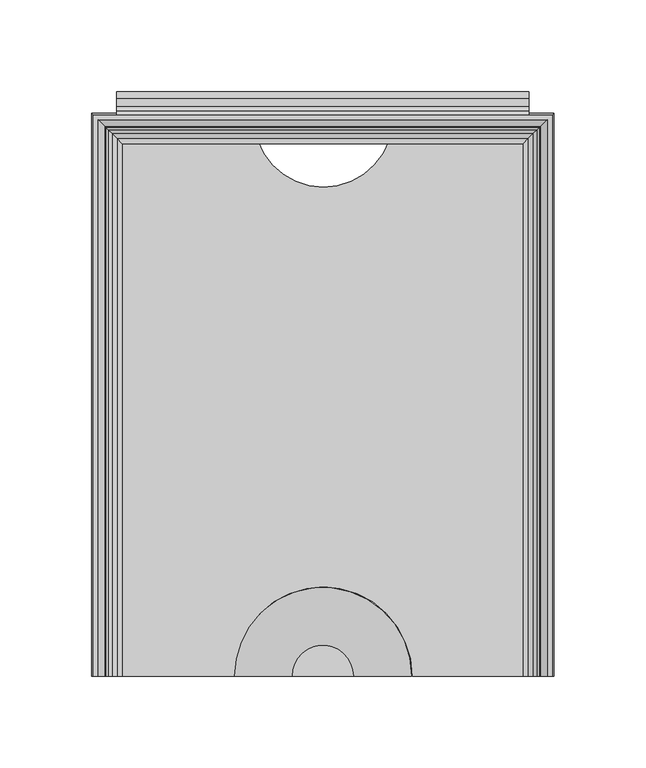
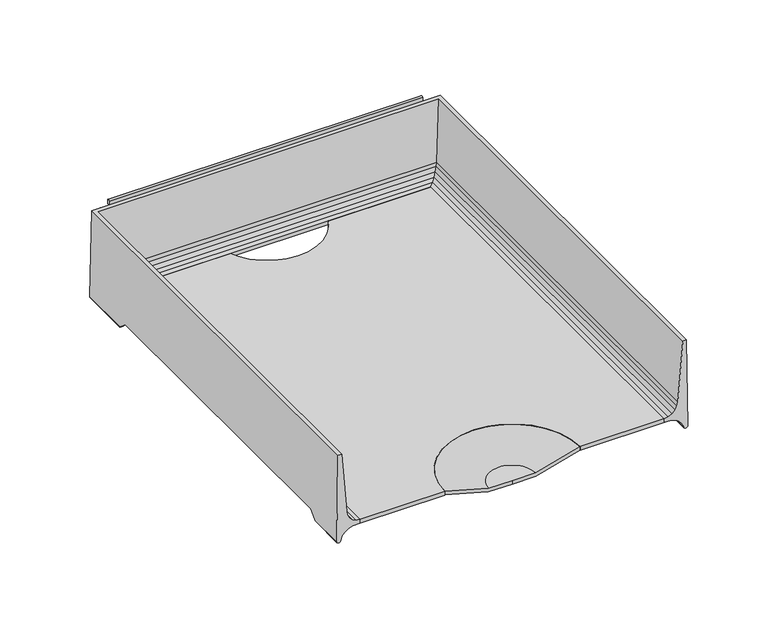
"""IFC4 building model written with IfcOpenShell, lengths in millimetres: furniture geometry."""

from ifc_helpers import new_model, si_unit, point, frame, frame_2d, origin, place, context, project, spatial, polyline, circle_curve, ellipse_curve, trimmed, segment, composite_curve, outline, extrude, source, transform, mapped, element, save
from ifc_brep_helpers import plane_surface, cylinder_surface, revolved_surface, advanced_brep


def furniture_90da91c6(model_context):
    return source(origin(), model_context, "Body", "SolidModel", [
        advanced_brep(
        [(126.0820502, -154.0206082, 849.0007489), (125.1325529, -154.0206082, 914.4001914), (122.4547921, -154.0206082, 914.4001914), (118.8379747, -154.0206082, 869.6131003), (118.4123648, -154.0206082, 866.8796052), (117.0774354, -154.0206082, 864.1785664), (114.9656457, -154.0206082, 862.0296015), (112.28832, -154.0206082, 860.6477261), (109.3133381, -154.0206082, 860.1712052), (109.3133381, -154.0206082, 857.3490971), (114.5666739, -154.0206082, 857.1560987), (117.605351, -154.0206082, 856.0997218), (120.2416, -154.0206082, 854.2558822), (122.2762142, -154.0206082, 851.7639079), (123.1625518, -154.0206082, 848.7206655), (126.0820502, -127.6379698, 849.0007489), (126.0026181, -121.5231874, 854.471872), (126.0026181, 109.0611937, 854.471872), (126.0820502, 115.1759816, 849.0007489), (126.0820502, 153.036442, 849.0007489), (125.1325529, 152.0869447, 914.4001914), (-125.1325529, 152.0869447, 914.4001914), (-125.1325529, -154.0206082, 914.4001914), (-122.4547921, -154.0206082, 914.4001914), (-122.4547921, 149.4091839, 914.4001914), (122.4547921, 149.4091839, 914.4001914), (118.8379747, 145.7923665, 869.6131003), (118.4123648, 145.3667566, 866.8796052), (117.0774354, 144.0318272, 864.1785664), (114.9656457, 141.9200375, 862.0296015), (112.28832, 139.2427118, 860.6477261), (109.3133381, 136.2677299, 860.1712052), (109.3133381, 136.2677299, 857.3490971), (114.5666739, 141.5210656, 857.1560987), (117.605351, 144.5597428, 856.0997218), (120.2416, 147.1959918, 854.2558822), (120.2416, 109.3025941, 854.2558822), (119.9327864, 109.0611937, 854.471872), (119.9327864, -121.5231874, 854.471872), (120.2416, -121.7645876, 854.2558822), (122.2762142, -124.5497344, 851.7639079), (122.2762142, 149.230606, 851.7639079), (122.2762142, 112.0877435, 851.7639079), (123.1625518, -127.9510041, 848.7206655), (123.1625518, 150.1169436, 848.7206655), (123.1625518, 115.4890162, 848.7206655), (-126.0820502, 153.036442, 849.0007489), (-118.8379747, 145.7923665, 869.6131003), (-118.4123648, 145.3667566, 866.8796052), (-117.0774354, 144.0318272, 864.1785664), (-114.9656457, 141.9200375, 862.0296015), (-112.28832, 139.2427118, 860.6477261), (-109.3133381, 136.2677299, 860.1712052), (-109.3133381, 136.2677299, 857.3490971), (-114.5666739, 141.5210656, 857.1560987), (-117.605351, 144.5597428, 856.0997218), (-120.2416, 147.1959918, 854.2558822), (-122.2762142, 149.230606, 851.7639079), (-123.1625518, 150.1169436, 848.7206655), (-126.0820502, -154.0206082, 849.0007489), (-123.1625518, -154.0206082, 848.7206655), (-122.2762142, -154.0206082, 851.7639079), (-120.2416, -154.0206082, 854.2558822), (-117.605351, -154.0206082, 856.0997218), (-114.5666739, -154.0206082, 857.1560987), (-109.3133381, -154.0206082, 857.3490971), (-109.3133381, -154.0206082, 860.1712052), (-112.28832, -154.0206082, 860.6477261), (-114.9656457, -154.0206082, 862.0296015), (-117.0774354, -154.0206082, 864.1785664), (-118.4123648, -154.0206082, 866.8796052), (-118.8379747, -154.0206082, 869.6131003), (-126.0820502, 115.1759816, 849.0007489), (-126.0026181, 109.0611937, 854.471872), (-126.0026181, -121.5231874, 854.471872), (-126.0820502, -127.6379698, 849.0007489), (-120.2416, -121.7645876, 854.2558822), (-119.9327864, -121.5231874, 854.471872), (-119.9327864, 109.0611937, 854.471872), (-120.2416, 109.3025941, 854.2558822), (-122.2762142, 112.0877435, 851.7639079), (-122.2762142, -124.5497344, 851.7639079), (-123.1625518, 115.4890162, 848.7206655), (-123.1625518, -127.9510041, 848.7206655)],
        [
            (0, 1),
            (1, 2),
            (2, 3),
            (3, 4),
            (4, 5),
            (5, 6),
            (6, 7),
            (7, 8),
            (8, 9),
            (9, 10),
            (10, 11),
            (11, 12),
            (12, 13),
            (13, 14),
            (14, 0, circle_curve(frame((124.5859452, -154.0206082, 849.2396685), z_axis=(0.0, -1.0, 0.0), x_axis=(-1.0, 0.0, 0.0)), 1.515062)),
            (0, 15),
            (15, 16),
            (16, 17),
            (17, 18),
            (18, 19),
            (19, 20),
            (20, 1),
            (20, 21),
            (21, 22),
            (22, 23),
            (23, 24),
            (24, 25),
            (25, 2),
            (25, 26),
            (26, 3),
            (26, 27),
            (27, 4),
            (27, 28),
            (28, 5),
            (28, 29),
            (29, 6),
            (29, 30),
            (30, 7),
            (30, 31),
            (31, 8),
            (31, 32),
            (32, 9),
            (32, 33),
            (33, 10),
            (33, 34),
            (34, 11),
            (34, 35),
            (35, 36),
            (36, 37),
            (37, 38),
            (38, 39),
            (39, 12),
            (39, 40),
            (40, 13),
            (35, 41),
            (41, 42),
            (42, 36),
            (40, 43),
            (43, 14),
            (41, 44),
            (44, 45),
            (45, 42),
            (43, 15, ellipse_curve(frame((124.5859452, -127.3709422, 849.2396685), z_axis=(0.0, -0.6667949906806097, 0.7452411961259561), x_axis=(0.0, -0.7452411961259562, -0.6667949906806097)), 2.2721556, 1.515062)),
            (44, 19, ellipse_curve(frame((124.5859452, 151.540337, 849.2396685), z_axis=(0.7071067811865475, -0.7071067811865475, 0.0), x_axis=(-0.7071067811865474, -0.7071067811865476, 0.0)), 2.1426212, 1.515062)),
            (18, 45, ellipse_curve(frame((124.5859452, 114.9089538, 849.2396685), z_axis=(0.0, 0.6667946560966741, 0.7452414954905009), x_axis=(0.0, -0.7452414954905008, 0.6667946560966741)), 2.2721567, 1.515062)),
            (19, 46),
            (46, 21),
            (24, 47),
            (47, 26),
            (47, 48),
            (48, 27),
            (48, 49),
            (49, 28),
            (49, 50),
            (50, 29),
            (50, 51),
            (51, 30),
            (51, 52),
            (52, 31),
            (52, 53),
            (53, 32),
            (53, 54),
            (54, 33),
            (54, 55),
            (55, 34),
            (55, 56),
            (56, 35),
            (56, 57),
            (57, 41),
            (57, 58),
            (58, 44),
            (58, 46, ellipse_curve(frame((-124.5859452, 151.540337, 849.2396685), z_axis=(0.7071067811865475, 0.7071067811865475, 0.0), x_axis=(0.7071067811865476, -0.7071067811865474, 0.0)), 2.1426212, 1.515062)),
            (22, 59),
            (59, 60, circle_curve(frame((-124.5859452, -154.0206082, 849.2396685), z_axis=(0.0, -1.0, 0.0), x_axis=(1.0, 0.0, 0.0)), 1.515062)),
            (60, 61),
            (61, 62),
            (62, 63),
            (63, 64),
            (64, 65),
            (65, 66),
            (66, 67),
            (67, 68),
            (68, 69),
            (69, 70),
            (70, 71),
            (71, 23),
            (46, 72),
            (72, 73),
            (73, 74),
            (74, 75),
            (75, 59),
            (71, 47),
            (70, 48),
            (69, 49),
            (68, 50),
            (67, 51),
            (66, 52),
            (65, 53),
            (64, 54),
            (63, 55),
            (62, 76),
            (76, 77),
            (77, 78),
            (78, 79),
            (79, 56),
            (79, 80),
            (80, 57),
            (61, 81),
            (81, 76),
            (80, 82),
            (82, 58),
            (60, 83),
            (83, 81),
            (82, 72, ellipse_curve(frame((-124.5859452, 114.9089538, 849.2396685), z_axis=(0.0, 0.6667946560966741, 0.7452414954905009), x_axis=(0.0, 0.7452414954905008, -0.6667946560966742)), 2.2721567, 1.515062)),
            (75, 83, ellipse_curve(frame((-124.5859452, -127.3709422, 849.2396685), z_axis=(0.0, -0.6667949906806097, 0.7452411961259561), x_axis=(0.0, 0.745241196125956, 0.6667949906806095)), 2.2721556, 1.515062)),
            (38, 16),
            (74, 77),
            (37, 17),
            (73, 78),
        ],
        [
            plane_surface(frame((127.0, -154.0206082, 847.725), z_axis=(0.0, -1.0, 0.0), x_axis=(0.0, 0.0, 1.0))),
            plane_surface(frame((126.0820502, -154.0206082, 849.0007489), z_axis=(0.9998946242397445, 0.0, 0.014516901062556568), x_axis=(0.0, 1.0, 0.0))),
            plane_surface(frame((125.1325529, -154.0206082, 914.4001914), z_axis=(0.0, 0.0, 1.0), x_axis=(0.0, 1.0, 0.0))),
            plane_surface(frame((122.4547921, -154.0206082, 914.4001914), z_axis=(-0.9967551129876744, 0.0, 0.08049375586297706), x_axis=(0.0, 1.0, 0.0))),
            plane_surface(frame((118.8379747, -154.0206082, 869.6131003), z_axis=(-0.9880945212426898, 0.0, 0.15384803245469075), x_axis=(0.0, 1.0, 0.0))),
            plane_surface(frame((118.4123648, -154.0206082, 866.8796052), z_axis=(-0.8964873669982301, 0.0, 0.44306929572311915), x_axis=(0.0, 1.0, 0.0))),
            plane_surface(frame((117.0774354, -154.0206082, 864.1785664), z_axis=(-0.7132491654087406, 0.0, 0.7009105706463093), x_axis=(0.0, 1.0, 0.0))),
            plane_surface(frame((114.9656457, -154.0206082, 862.0296015), z_axis=(-0.45865074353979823, 0.0, 0.8886166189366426), x_axis=(0.0, 1.0, 0.0))),
            plane_surface(frame((112.28832, -154.0206082, 860.6477261), z_axis=(-0.15816001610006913, 0.0, 0.987413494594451), x_axis=(0.0, 1.0, 0.0))),
            plane_surface(frame((109.3133381, -154.0206082, 860.1712052), z_axis=(-1.0, 0.0, 0.0), x_axis=(0.0, 1.0, 0.0))),
            plane_surface(frame((109.3133381, -154.0206082, 857.3490971), z_axis=(-0.036713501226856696, 0.0, -0.9993258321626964), x_axis=(0.0, 1.0, 0.0))),
            plane_surface(frame((114.5666739, -154.0206082, 857.1560987), z_axis=(-0.3283669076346, 0.0, -0.9445502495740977), x_axis=(0.0, 1.0, 0.0))),
            plane_surface(frame((117.605351, -154.0206082, 856.0997218), z_axis=(-0.5731421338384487, 0.0, -0.819455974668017), x_axis=(0.0, 1.0, 0.0))),
            plane_surface(frame((120.2416, -154.0206082, 854.2558822), z_axis=(-0.77460799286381, 0.0, -0.6324416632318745), x_axis=(0.0, 1.0, 0.0))),
            plane_surface(frame((122.2762142, -154.0206082, 851.7639079), z_axis=(-0.9601080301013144, 0.0, -0.2796293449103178), x_axis=(0.0, 1.0, 0.0))),
            cylinder_surface(frame((124.5859452, -154.0206082, 849.2396685), z_axis=(0.0, -1.0, 0.0), x_axis=(-1.0, 0.0, 0.0)), 1.515062),
            plane_surface(frame((126.0820502, 153.036442, 849.0007489), z_axis=(0.0, 0.9998946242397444, 0.014516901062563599), x_axis=(-1.0, 0.0, 0.0))),
            plane_surface(frame((122.4547921, 149.4091839, 914.4001914), z_axis=(0.0, -0.9967551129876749, 0.08049375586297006), x_axis=(-1.0, 0.0, 0.0))),
            plane_surface(frame((118.8379747, 145.7923665, 869.6131003), z_axis=(0.0, -0.9880945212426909, 0.15384803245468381), x_axis=(-1.0, 0.0, 0.0))),
            plane_surface(frame((118.4123648, 145.3667566, 866.8796052), z_axis=(0.0, -0.8964873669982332, 0.4430692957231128), x_axis=(-1.0, 0.0, 0.0))),
            plane_surface(frame((117.0774354, 144.0318272, 864.1785664), z_axis=(0.0, -0.7132491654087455, 0.7009105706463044), x_axis=(-1.0, 0.0, 0.0))),
            plane_surface(frame((114.9656457, 141.9200375, 862.0296015), z_axis=(0.0, -0.4586507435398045, 0.8886166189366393), x_axis=(-1.0, 0.0, 0.0))),
            plane_surface(frame((112.28832, 139.2427118, 860.6477261), z_axis=(0.0, -0.15816001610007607, 0.9874134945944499), x_axis=(-1.0, 0.0, 0.0))),
            plane_surface(frame((109.3133381, 136.2677299, 860.1712052), z_axis=(0.0, -1.0, 0.0), x_axis=(-1.0, 0.0, 0.0))),
            plane_surface(frame((109.3133381, 136.2677299, 857.3490971), z_axis=(0.0, -0.03671350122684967, -0.9993258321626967), x_axis=(-1.0, 0.0, 0.0))),
            plane_surface(frame((114.5666739, 141.5210656, 857.1560987), z_axis=(0.0, -0.32836690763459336, -0.9445502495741), x_axis=(-1.0, 0.0, 0.0))),
            plane_surface(frame((117.605351, 144.5597428, 856.0997218), z_axis=(0.0, -0.5731421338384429, -0.819455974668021), x_axis=(-1.0, 0.0, 0.0))),
            plane_surface(frame((120.2416, 147.1959918, 854.2558822), z_axis=(0.0, -0.7746079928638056, -0.6324416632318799), x_axis=(-1.0, 0.0, 0.0))),
            plane_surface(frame((122.2762142, 149.230606, 851.7639079), z_axis=(0.0, -0.9601080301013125, -0.27962934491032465), x_axis=(-1.0, 0.0, 0.0))),
            cylinder_surface(frame((127.0, 151.540337, 849.2396685), z_axis=(1.0, 0.0, 0.0), x_axis=(0.0, -1.0, 0.0)), 1.515062),
            plane_surface(frame((-127.0, -154.0206082, 847.725), z_axis=(0.0, -1.0, 0.0), x_axis=(0.0, 0.0, 1.0))),
            plane_surface(frame((-126.0820502, 153.036442, 849.0007489), z_axis=(-0.9998946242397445, 0.0, 0.014516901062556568), x_axis=(0.0, -1.0, 0.0))),
            plane_surface(frame((-122.4547921, 149.4091839, 914.4001914), z_axis=(0.9967551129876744, 0.0, 0.08049375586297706), x_axis=(0.0, -1.0, 0.0))),
            plane_surface(frame((-118.8379747, 145.7923665, 869.6131003), z_axis=(0.9880945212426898, 0.0, 0.15384803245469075), x_axis=(0.0, -1.0, 0.0))),
            plane_surface(frame((-118.4123648, 145.3667566, 866.8796052), z_axis=(0.8964873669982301, 0.0, 0.44306929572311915), x_axis=(0.0, -1.0, 0.0))),
            plane_surface(frame((-117.0774354, 144.0318272, 864.1785664), z_axis=(0.7132491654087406, 0.0, 0.7009105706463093), x_axis=(0.0, -1.0, 0.0))),
            plane_surface(frame((-114.9656457, 141.9200375, 862.0296015), z_axis=(0.45865074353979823, 0.0, 0.8886166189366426), x_axis=(0.0, -1.0, 0.0))),
            plane_surface(frame((-112.28832, 139.2427118, 860.6477261), z_axis=(0.15816001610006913, 0.0, 0.987413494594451), x_axis=(0.0, -1.0, 0.0))),
            plane_surface(frame((-109.3133381, 136.2677299, 860.1712052), z_axis=(1.0, 0.0, 0.0), x_axis=(0.0, -1.0, 0.0))),
            plane_surface(frame((-109.3133381, 136.2677299, 857.3490971), z_axis=(0.036713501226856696, 0.0, -0.9993258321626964), x_axis=(0.0, -1.0, 0.0))),
            plane_surface(frame((-114.5666739, 141.5210656, 857.1560987), z_axis=(0.3283669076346, 0.0, -0.9445502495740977), x_axis=(0.0, -1.0, 0.0))),
            plane_surface(frame((-117.605351, 144.5597428, 856.0997218), z_axis=(0.5731421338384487, 0.0, -0.819455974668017), x_axis=(0.0, -1.0, 0.0))),
            plane_surface(frame((-120.2416, 147.1959918, 854.2558822), z_axis=(0.77460799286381, 0.0, -0.6324416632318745), x_axis=(0.0, -1.0, 0.0))),
            plane_surface(frame((-122.2762142, 149.230606, 851.7639079), z_axis=(0.9601080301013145, 0.0, -0.2796293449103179), x_axis=(0.0, -1.0, 0.0))),
            cylinder_surface(frame((-124.5859452, 153.9543918, 849.2396685), z_axis=(0.0, 1.0, 0.0), x_axis=(1.0, 0.0, 0.0)), 1.515062),
            plane_surface(frame((-127.0, -130.1695728, 846.7356296), z_axis=(0.0, 0.6667949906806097, -0.7452411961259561), x_axis=(1.0, 0.0, 0.0))),
            plane_surface(frame((-127.0, -121.5231874, 854.471872), z_axis=(0.0, 0.0, -1.0), x_axis=(1.0, 0.0, 0.0))),
            plane_surface(frame((-127.0, 109.0611937, 854.471872), z_axis=(0.0, -0.6667946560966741, -0.7452414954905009), x_axis=(1.0, 0.0, 0.0))),
        ],
        [
            (0, [[1, 2, 3, 4, 5, 6, 7, 8, 9, 10, 11, 12, 13, 14, 15]]),
            (1, [[-1, 16, 17, 18, 19, 20, 21, 22]]),
            (2, [[-2, -22, 23, 24, 25, 26, 27, 28]]),
            (3, [[-3, -28, 29, 30]]),
            (4, [[-4, -30, 31, 32]]),
            (5, [[-5, -32, 33, 34]]),
            (6, [[-6, -34, 35, 36]]),
            (7, [[-7, -36, 37, 38]]),
            (8, [[-8, -38, 39, 40]]),
            (9, [[-9, -40, 41, 42]]),
            (10, [[-10, -42, 43, 44]]),
            (11, [[-11, -44, 45, 46]]),
            (12, [[-12, -46, 47, 48, 49, 50, 51, 52]]),
            (13, [[-13, -52, 53, 54]]),
            (13, [[55, 56, 57, -48]]),
            (14, [[-14, -54, 58, 59]]),
            (14, [[60, 61, 62, -56]]),
            (15, [[-15, -59, 63, -16]]),
            (15, [[64, -20, 65, -61]]),
            (16, [[-21, 66, 67, -23]]),
            (17, [[-27, 68, 69, -29]]),
            (18, [[-31, -69, 70, 71]]),
            (19, [[-33, -71, 72, 73]]),
            (20, [[-35, -73, 74, 75]]),
            (21, [[-37, -75, 76, 77]]),
            (22, [[-39, -77, 78, 79]]),
            (23, [[-41, -79, 80, 81]]),
            (24, [[-43, -81, 82, 83]]),
            (25, [[-45, -83, 84, 85]]),
            (26, [[-47, -85, 86, 87]]),
            (27, [[-55, -87, 88, 89]]),
            (28, [[-60, -89, 90, 91]]),
            (29, [[-64, -91, 92, -66]]),
            (30, [[-25, 93, 94, 95, 96, 97, 98, 99, 100, 101, 102, 103, 104, 105, 106]]),
            (31, [[-24, -67, 107, 108, 109, 110, 111, -93]]),
            (32, [[-26, -106, 112, -68]]),
            (33, [[-70, -112, -105, 113]]),
            (34, [[-72, -113, -104, 114]]),
            (35, [[-74, -114, -103, 115]]),
            (36, [[-76, -115, -102, 116]]),
            (37, [[-78, -116, -101, 117]]),
            (38, [[-80, -117, -100, 118]]),
            (39, [[-82, -118, -99, 119]]),
            (40, [[-84, -119, -98, 120]]),
            (41, [[-86, -120, -97, 121, 122, 123, 124, 125]]),
            (42, [[-88, -125, 126, 127]]),
            (42, [[-96, 128, 129, -121]]),
            (43, [[-90, -127, 130, 131]]),
            (43, [[-95, 132, 133, -128]]),
            (44, [[-92, -131, 134, -107]]),
            (44, [[-94, -111, 135, -132]]),
            (45, [[136, -17, -63, -58, -53, -51]]),
            (45, [[137, -122, -129, -133, -135, -110]]),
            (46, [[-136, -50, 138, -18]]),
            (46, [[-137, -109, 139, -123]]),
            (47, [[-138, -49, -57, -62, -65, -19]]),
            (47, [[-139, -108, -134, -130, -126, -124]]),
        ],
    ),
        extrude(outline(composite_curve([segment(polyline([(-109.3647805, 138.2769393), (-35.6610422, 138.2769393)]), True, "CONTINUOUS"), segment(trimmed(circle_curve(frame_2d((0.3369133, 150.6584166)), 38.0677525), [point((-35.6610422, 138.2769393))], [point((36.3348688, 138.2769393))], True, "CARTESIAN"), True, "CONTINUOUS"), segment(polyline([(36.3348688, 138.2769393), (109.6504969, 138.2769393), (109.6504969, -153.9875), (48.9112184, -153.9875)]), True, "CONTINUOUS"), segment(trimmed(circle_curve(frame_2d((0.2842795, -153.9323196)), 48.6269702), [point((48.9112184, -153.9875))], [point((-48.3426595, -153.9875))], True, "CARTESIAN"), True, "CONTINUOUS"), segment(polyline([(-48.3426595, -153.9875), (-109.3647805, -153.9875), (-109.3647805, 138.2769393)]), True, "CONTINUOUS")], self_intersect=False)), frame((0.0, 0.0, 857.3314677), z_axis=(0.0, 0.0, 1.0), x_axis=(1.0, 0.0, 0.0)), (0.0, 0.0, 1.0), 2.8395461),
        extrude(outline(composite_curve([segment(trimmed(circle_curve(frame_2d((162.7186949, 898.5707343)), 1.9049988), [point((164.6236937, 898.5707343))], [point((160.8136962, 898.5707343))], False, "CARTESIAN"), True, "CONTINUOUS"), segment(polyline([(160.8136962, 898.5707343), (160.8136962, 901.9997311), (160.0516969, 902.7617303), (156.4380325, 902.7617303), (152.1427596, 900.4143331), (152.1427596, 908.9191285), (156.4380325, 906.5717312), (160.8136928, 906.5717312)]), True, "CONTINUOUS"), segment(trimmed(circle_curve(frame_2d((160.8136928, 902.7617303)), 3.8100009), [point((160.8136928, 906.5717312))], [point((164.6236937, 902.7617303))], False, "CARTESIAN"), True, "CONTINUOUS"), segment(polyline([(164.6236937, 902.7617303), (164.6236937, 898.5707343)]), True, "CONTINUOUS")], self_intersect=False)), frame((-112.5397809, 0.0, 0.0), z_axis=(1.0, 0.0, 0.0), x_axis=(0.0, 1.0, 0.0)), (0.0, 0.0, 1.0), 225.0795617),
        advanced_brep(
        [(-16.8929028, -153.9875, 851.296875), (-48.4614622, -153.9875, 860.2045432), (-48.4614622, -153.9875, 857.6130018), (-16.9249292, -153.9875, 848.7143704), (0.0, -153.9875, 848.7143704), (0.0, -153.9875, 851.296875), (16.8929028, -153.9875, 851.296875), (16.9249292, -153.9875, 848.7143704), (48.4614622, -153.9875, 857.6130018), (48.4614622, -153.9875, 860.2045432)],
        [
            (0, 1),
            (1, 2),
            (2, 3),
            (3, 4),
            (4, 5),
            (5, 0),
            (6, 5),
            (4, 7),
            (7, 8),
            (8, 9),
            (9, 6),
            (9, 1, circle_curve(frame((0.0, -153.9875, 860.2045432), z_axis=(0.0, 0.0, 1.0), x_axis=(-1.0, 0.0, 0.0)), 48.4614622)),
            (0, 6, circle_curve(frame((0.0, -153.9875, 851.296875), z_axis=(0.0, 0.0, -1.0), x_axis=(-1.0, 0.0, 0.0)), 16.8929028)),
            (8, 2, circle_curve(frame((0.0, -153.9875, 857.6130018), z_axis=(0.0, 0.0, 1.0), x_axis=(-1.0, 0.0, 0.0)), 48.4614622)),
            (7, 3, circle_curve(frame((0.0, -153.9875, 848.7143704), z_axis=(0.0, 0.0, 1.0), x_axis=(-1.0, 0.0, 0.0)), 16.9249292)),
        ],
        [
            plane_surface(frame((0.0, -153.9875, 847.725), z_axis=(0.0, -1.0, 0.0), x_axis=(-1.0, 0.0, 0.0))),
            plane_surface(frame((0.0, -153.9875, 847.725), z_axis=(0.0, -1.0, 0.0), x_axis=(1.0, 0.0, 0.0))),
            revolved_surface(polyline([(-48.4614622, -153.9875, 860.2045432), (-16.8929028, -153.9875, 851.296875)]), (0.0, -153.9875, 847.725), (0.0, 0.0, 1.0)),
            cylinder_surface(frame((0.0, -153.9875, 847.725), z_axis=(0.0, 0.0, 1.0), x_axis=(-1.0, 0.0, 0.0)), 48.4614622),
            revolved_surface(polyline([(-16.9249292, -153.9875, 848.7143704), (-48.4614622, -153.9875, 857.6130018)]), (0.0, -153.9875, 847.725), (0.0, 0.0, 1.0)),
            plane_surface(frame((0.0, -153.9875, 848.7143704), z_axis=(0.0, 0.0, -1.0), x_axis=(-1.0, 0.0, 0.0))),
            plane_surface(frame((0.0, -153.9875, 851.296875), z_axis=(0.0, 0.0, 1.0), x_axis=(-1.0, 0.0, 0.0))),
        ],
        [
            (0, [[1, 2, 3, 4, 5, 6]]),
            (1, [[7, -5, 8, 9, 10, 11]]),
            (2, [[12, -1, 13, -11]]),
            (3, [[14, -2, -12, -10]]),
            (4, [[15, -3, -14, -9]]),
            (5, [[-4, -15, -8]]),
            (6, [[-13, -6, -7]]),
        ],
    ),
        extrude(outline(composite_curve([segment(polyline([(153.9875, 914.4), (152.1427596, 914.4), (152.1427596, 917.2315333)]), True, "CONTINUOUS"), segment(trimmed(circle_curve(frame_2d((153.0651298, 916.9262665)), 0.9715733), [point((152.1427596, 917.2315333))], [point((153.9875, 917.2315333))], False, "CARTESIAN"), True, "CONTINUOUS"), segment(polyline([(153.9875, 917.2315333), (153.9875, 914.4)]), True, "CONTINUOUS")], self_intersect=False)), frame((-112.5397809, 0.0, 0.0), z_axis=(1.0, 0.0, 0.0), x_axis=(0.0, 1.0, 0.0)), (0.0, 0.0, 1.0), 225.0795617),
    ])


if __name__ == "__main__":
    model = new_model("IFC4")
    model_context = context("Model", 3, world=origin())
    ifc_project = project(units=[si_unit("LENGTHUNIT", "METRE", prefix="MILLI")], contexts=[model_context])
    site = spatial("IfcSite", under=ifc_project)
    building = spatial("IfcBuilding", under=site)
    placement = place(None, origin())
    furniture_shape = furniture_90da91c6(model_context)
    element("IfcFurniture", 1, ObjectType="HermanMiller_ThrivePortfolio_Y7216_PaperTray : 3\"H x 12\"D x 10\"W", at=placement, inside=building, context=model_context, shape_type="MappedRepresentation", body=[
        mapped(furniture_shape, transform((0.0, 0.0, 0.0), x_axis=(1.0, 0.0, 0.0), y_axis=(0.0, 1.0, 0.0), z_axis=(0.0, 0.0, 1.0))),
    ])
    save(model, "model.ifc")
